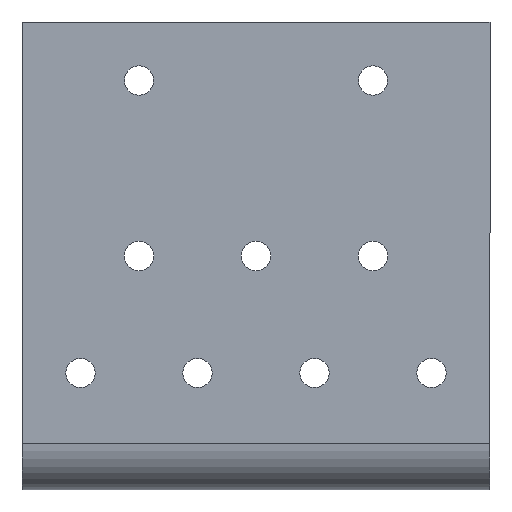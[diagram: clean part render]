
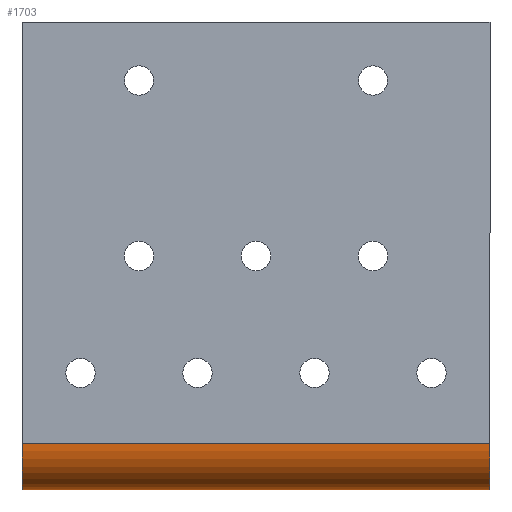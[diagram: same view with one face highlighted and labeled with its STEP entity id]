
A CAD part, front view. The second image highlights one B-rep face of the part: STEP entity #1703.
In plain terms, the highlighted cylindrical face has radius 8 mm (diameter 16 mm), a partial arc.
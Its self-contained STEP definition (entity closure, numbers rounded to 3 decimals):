
#9 = VECTOR ( 'NONE', #520, 1000. ) ;
#62 = CARTESIAN_POINT ( 'NONE',  ( -40., -72., -32. ) ) ;
#135 = AXIS2_PLACEMENT_3D ( 'NONE', #859, #1589, #155 ) ;
#143 = LINE ( 'NONE', #377, #9 ) ;
#155 = DIRECTION ( 'NONE',  ( 0., -1., 0. ) ) ;
#174 = DIRECTION ( 'NONE',  ( 0., -1., 0. ) ) ;
#220 = CARTESIAN_POINT ( 'NONE',  ( -40., -80., -32. ) ) ;
#294 = VERTEX_POINT ( 'NONE', #220 ) ;
#302 = DIRECTION ( 'NONE',  ( 0., -1., 0. ) ) ;
#342 = VERTEX_POINT ( 'NONE', #346 ) ;
#346 = CARTESIAN_POINT ( 'NONE',  ( -40., -72., -40. ) ) ;
#377 = CARTESIAN_POINT ( 'NONE',  ( 40., -72., -40. ) ) ;
#505 = CYLINDRICAL_SURFACE ( 'NONE', #135, 8. ) ;
#520 = DIRECTION ( 'NONE',  ( -1., 0., 0. ) ) ;
#541 = ORIENTED_EDGE ( 'NONE', *, *, #1366, .T. ) ;
#565 = FACE_OUTER_BOUND ( 'NONE', #1126, .T. ) ;
#645 = ORIENTED_EDGE ( 'NONE', *, *, #1033, .T. ) ;
#859 = CARTESIAN_POINT ( 'NONE',  ( 0., -72., -32. ) ) ;
#887 = CIRCLE ( 'NONE', #1730, 8. ) ;
#973 = AXIS2_PLACEMENT_3D ( 'NONE', #62, #1599, #174 ) ;
#997 = DIRECTION ( 'NONE',  ( 1., 0., 0. ) ) ;
#1021 = CARTESIAN_POINT ( 'NONE',  ( 40., -72., -40. ) ) ;
#1033 = EDGE_CURVE ( 'NONE', #294, #342, #1262, .T. ) ;
#1116 = DIRECTION ( 'NONE',  ( -1., 0., 0. ) ) ;
#1126 = EDGE_LOOP ( 'NONE', ( #541, #645, #1826, #1264 ) ) ;
#1262 = CIRCLE ( 'NONE', #973, 8. ) ;
#1264 = ORIENTED_EDGE ( 'NONE', *, *, #1523, .F. ) ;
#1310 = EDGE_CURVE ( 'NONE', #1521, #342, #143, .T. ) ;
#1327 = LINE ( 'NONE', #1698, #1772 ) ;
#1366 = EDGE_CURVE ( 'NONE', #1398, #294, #1327, .T. ) ;
#1398 = VERTEX_POINT ( 'NONE', #1562 ) ;
#1521 = VERTEX_POINT ( 'NONE', #1021 ) ;
#1523 = EDGE_CURVE ( 'NONE', #1398, #1521, #887, .T. ) ;
#1562 = CARTESIAN_POINT ( 'NONE',  ( 40., -80., -32. ) ) ;
#1589 = DIRECTION ( 'NONE',  ( 1., 0., 0. ) ) ;
#1599 = DIRECTION ( 'NONE',  ( 1., 0., 0. ) ) ;
#1698 = CARTESIAN_POINT ( 'NONE',  ( 0., -80., -32. ) ) ;
#1703 = ADVANCED_FACE ( 'NONE', ( #565 ), #505, .T. ) ;
#1730 = AXIS2_PLACEMENT_3D ( 'NONE', #1745, #997, #302 ) ;
#1745 = CARTESIAN_POINT ( 'NONE',  ( 40., -72., -32. ) ) ;
#1772 = VECTOR ( 'NONE', #1116, 1000. ) ;
#1826 = ORIENTED_EDGE ( 'NONE', *, *, #1310, .F. ) ;
